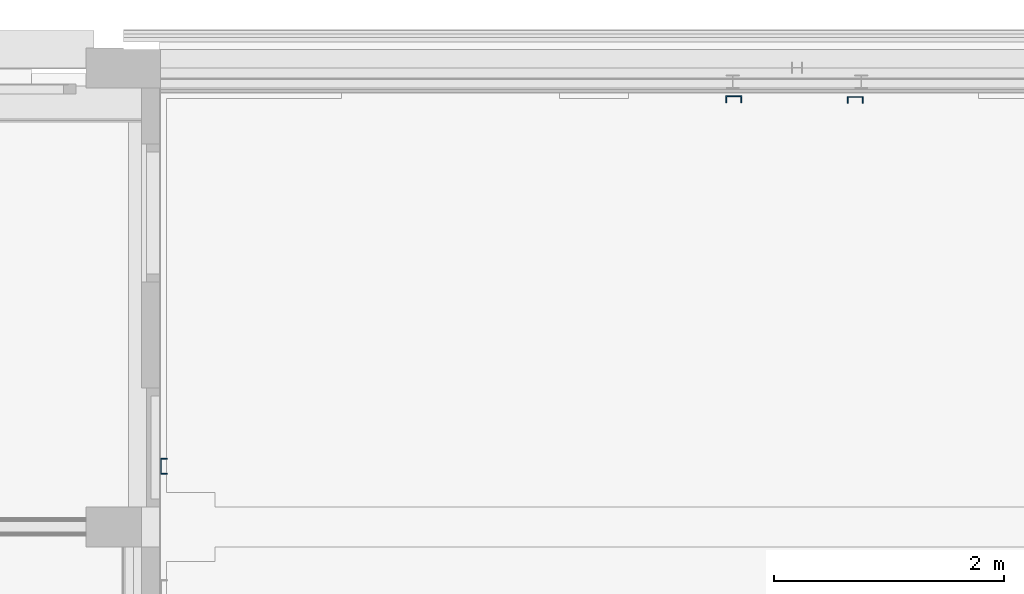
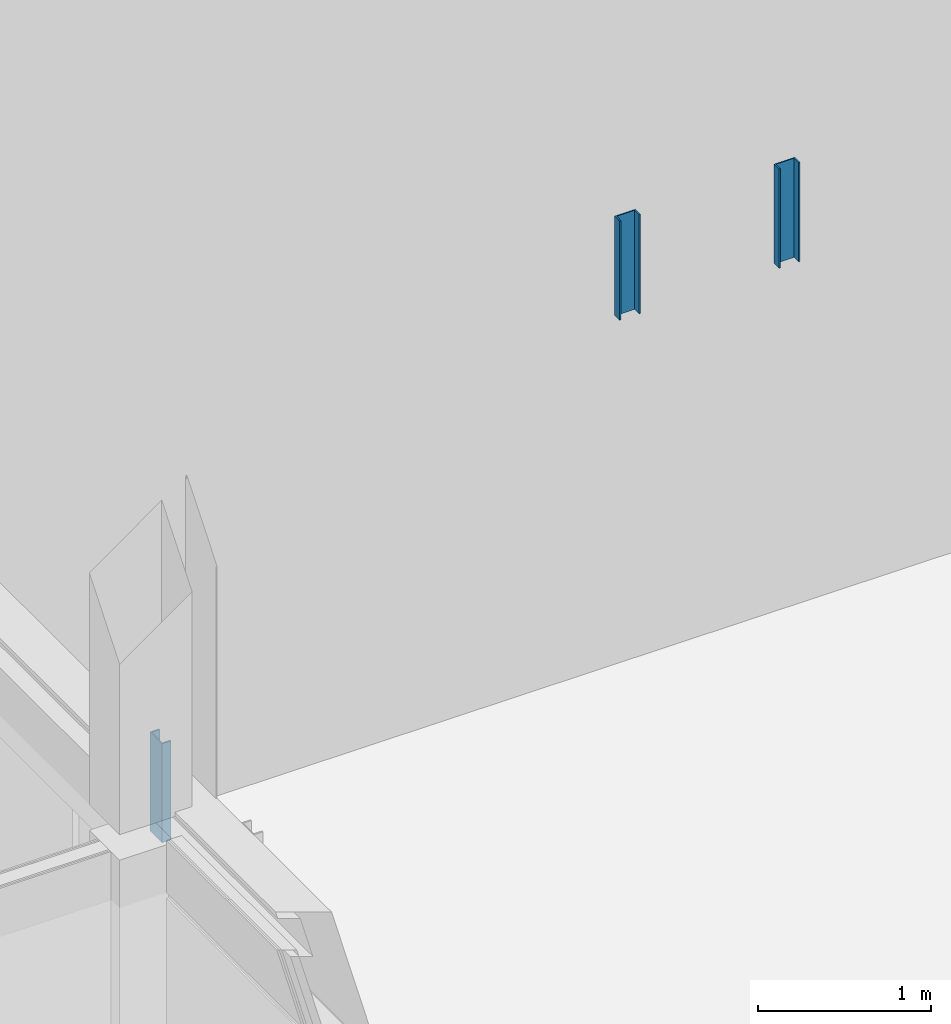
# One storey, part 11 of 109: 3 columns.
"""IFC2X3 building model written with IfcOpenShell, lengths in millimetres."""

from ifc_helpers import new_model, entity, si_unit, converted_unit, derived_unit, money_unit, direction, frame, origin_with_axes, place, context, subcontext, project, spatial, faceted_brep, material, type_object, element, save


model = new_model("IFC2X3")

# Units and contexts
model_context = context("Model", 3, precision=0.01, world=origin_with_axes(), true_north=direction((0.0, 1.0)))
body_context = subcontext(model_context, "Body", "Model", "MODEL_VIEW")
ifc_project = project(units=[si_unit("LENGTHUNIT", "METRE", prefix="MILLI"), si_unit("AREAUNIT", "SQUARE_METRE"), si_unit("VOLUMEUNIT", "CUBIC_METRE"), converted_unit("PLANEANGLEUNIT", "DEGREE", entity("IfcPlaneAngleMeasure", 0.0174532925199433), si_unit("PLANEANGLEUNIT", "RADIAN"), dimensions=[0, 0, 0, 0, 0, 0, 0]), money_unit("EUR"), converted_unit("TIMEUNIT", "Year", entity("IfcTimeMeasure", 31557600.0), si_unit("TIMEUNIT", "SECOND"), dimensions=[0, 0, 1, 0, 0, 0, 0]), si_unit("MASSUNIT", "GRAM", prefix="KILO"), si_unit("THERMODYNAMICTEMPERATUREUNIT", "DEGREE_CELSIUS"), si_unit("LUMINOUSINTENSITYUNIT", "LUMEN"), si_unit("ENERGYUNIT", "JOULE", prefix="MEGA"), derived_unit("THERMALCONDUCTANCEUNIT", [(si_unit("POWERUNIT", "WATT"), 1), (si_unit("LENGTHUNIT", "METRE"), -1), (si_unit("THERMODYNAMICTEMPERATUREUNIT", "KELVIN"), -1)]), derived_unit("SPECIFICHEATCAPACITYUNIT", [(si_unit("ENERGYUNIT", "JOULE"), 1), (si_unit("MASSUNIT", "GRAM", prefix="KILO"), -1), (si_unit("THERMODYNAMICTEMPERATUREUNIT", "KELVIN"), -1)]), derived_unit("MASSDENSITYUNIT", [(si_unit("MASSUNIT", "GRAM", prefix="KILO"), 1), (si_unit("VOLUMEUNIT", "CUBIC_METRE"), -1)])], contexts=[model_context])

# Site, building, storey
site_placement = place(None, origin_with_axes())
site = spatial("IfcSite", under=ifc_project, at=site_placement, Name="<site naam>", CompositionType="ELEMENT")
building_placement = place(site_placement, origin_with_axes())
building = spatial("IfcBuilding", under=site, at=building_placement, Name="<Naam gebouw>", CompositionType="ELEMENT")
storey_placement = place(building_placement, origin_with_axes())
storey = spatial("IfcBuildingStorey", under=building, at=storey_placement, Name="00 Begane grond", CompositionType="ELEMENT", Elevation=0.0)

# Columns
ifc_material = material(Name="staal")
column_type = type_object("IfcColumnType", Name="Profiel UPN algemeen 60 x 140", PredefinedType="COLUMN")
column_1_placement = place(storey_placement, frame((58324.99985746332, 16600.00066292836, 2488.0), z_axis=(0.0, 0.0, 1.0), x_axis=(1.0, 0.0, 0.0)))
element("IfcColumn", 1, at=column_1_placement, inside=storey, type_object=column_type, material=ifc_material, Name="28_Kolom_Profiel", ObjectType="COLUMN", context=body_context, shape_type="Brep", body=[
    faceted_brep([(60.00024564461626, 0.0, 699.9999999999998), (60.00024564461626, 0.0, 0.0), (0.0, 0.0, 0.0), (0.0, 0.0, 699.9999999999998), (60.00019651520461, -10.00000000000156, 699.9999999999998), (60.00019651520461, -10.00000000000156, 0.0), (6.999999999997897, -10.00000000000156, 0.0), (6.999999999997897, -130.0006629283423, 0.0), (60.00019651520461, -130.0006629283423, 0.0), (60.00024564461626, -140.000662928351, 0.0), (0.0, -140.000662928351, 0.0), (0.0, -140.000662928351, 699.9999999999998), (60.00024564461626, -140.000662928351, 699.9999999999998), (60.00019651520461, -130.0006629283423, 699.9999999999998), (6.999999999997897, -130.0006629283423, 699.9999999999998), (6.999999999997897, -10.00000000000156, 699.9999999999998)], [[[0, 1, 2, 3]], [[4, 5, 1, 0]], [[2, 1, 5, 6, 7, 8, 9, 10]], [[3, 2, 10, 11]], [[4, 0, 3, 11, 12, 13, 14, 15]], [[15, 6, 5, 4]], [[14, 7, 6, 15]], [[13, 8, 7, 14]], [[12, 9, 8, 13]], [[11, 10, 9, 12]]]),
])
column_2_placement = place(storey_placement, frame((63248.18919968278, 19757.42482489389, 2488.0), z_axis=(0.0, 0.0, 1.0), x_axis=(0.006604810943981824, 0.9999781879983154, 0.0)))
element("IfcColumn", 2, at=column_2_placement, inside=storey, type_object=column_type, material=ifc_material, Name="28_Kolom_Profiel", ObjectType="COLUMN", context=body_context, shape_type="Brep", body=[
    faceted_brep([(-60.00019651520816, -9.999999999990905, 699.9999999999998), (-60.00019651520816, -9.999999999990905, 0.0), (-6.999999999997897, -9.99999999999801, 0.0), (-6.999999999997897, -9.99999999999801, 699.9999999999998), (-60.00024564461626, 0.0, 699.9999999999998), (-60.00024564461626, 0.0, 0.0), (0.0, 0.0, 0.0), (0.0, -140.0006629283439, 0.0), (-60.00024564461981, -140.000662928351, 0.0), (-60.00019651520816, -130.0006629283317, 0.0), (-6.999999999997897, -130.0006629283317, 0.0), (-6.999999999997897, -130.0006629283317, 699.9999999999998), (-60.00019651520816, -130.0006629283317, 699.9999999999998), (-60.00024564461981, -140.000662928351, 699.9999999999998), (0.0, -140.0006629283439, 699.9999999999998), (0.0, 0.0, 699.9999999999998)], [[[0, 1, 2, 3]], [[4, 5, 1, 0]], [[2, 1, 5, 6, 7, 8, 9, 10]], [[3, 2, 10, 11]], [[4, 0, 3, 11, 12, 13, 14, 15]], [[15, 6, 5, 4]], [[14, 7, 6, 15]], [[13, 8, 7, 14]], [[12, 9, 8, 13]], [[11, 10, 9, 12]]]),
])
column_3_placement = place(storey_placement, frame((64448.16302528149, 19749.4990517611, 2488.0), z_axis=(0.0, 0.0, 1.0), x_axis=(-0.006604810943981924, -0.9999781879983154, 0.0)))
element("IfcColumn", 3, at=column_3_placement, inside=storey, type_object=column_type, material=ifc_material, Name="28_Kolom_Profiel", ObjectType="COLUMN", context=body_context, shape_type="Brep", body=[
    faceted_brep([(60.00024564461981, 0.0, 699.9999999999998), (60.00024564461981, 0.0, 0.0), (0.0, 0.0, 0.0), (0.0, 0.0, 699.9999999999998), (60.00019651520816, -10.00000000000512, 699.9999999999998), (60.00019651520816, -10.00000000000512, 0.0), (7.00000000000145, -10.00000000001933, 0.0), (7.000000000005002, -130.000662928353, 0.0), (60.00019651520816, -130.000662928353, 0.0), (60.00024564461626, -140.0006629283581, 0.0), (0.0, -140.0006629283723, 0.0), (0.0, -140.0006629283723, 699.9999999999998), (60.00024564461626, -140.0006629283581, 699.9999999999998), (60.00019651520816, -130.000662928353, 699.9999999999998), (7.000000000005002, -130.000662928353, 699.9999999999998), (7.00000000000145, -10.00000000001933, 699.9999999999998)], [[[0, 1, 2, 3]], [[4, 5, 1, 0]], [[2, 1, 5, 6, 7, 8, 9, 10]], [[3, 2, 10, 11]], [[4, 0, 3, 11, 12, 13, 14, 15]], [[15, 6, 5, 4]], [[14, 7, 6, 15]], [[13, 8, 7, 14]], [[12, 9, 8, 13]], [[11, 10, 9, 12]]]),
])

save(model, "model.ifc")
